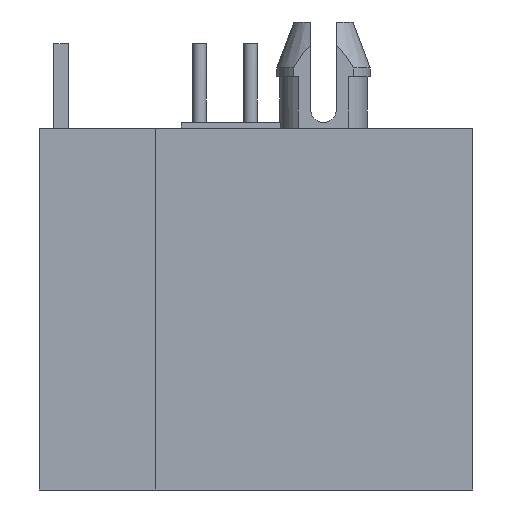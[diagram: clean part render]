
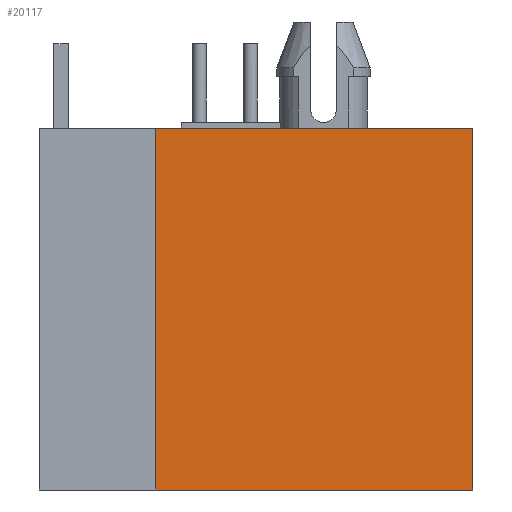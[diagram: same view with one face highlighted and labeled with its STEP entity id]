
A CAD part, left-side view. The second image highlights one B-rep face of the part: STEP entity #20117.
In plain terms, the highlighted planar face has unit normal (-1, 0, 0).
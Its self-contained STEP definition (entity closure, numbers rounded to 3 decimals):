
#13=DIRECTION('',(0.,-1.,0.));
#14=VECTOR('',#13,11.05);
#15=CARTESIAN_POINT('',(-23.6,11.05,0.));
#16=LINE('',#15,#14);
#17=DIRECTION('',(0.,0.,-1.));
#18=VECTOR('',#17,12.6);
#19=CARTESIAN_POINT('',(-23.6,0.,0.));
#20=LINE('',#19,#18);
#25=DIRECTION('',(0.,0.,-1.));
#26=VECTOR('',#25,12.6);
#27=CARTESIAN_POINT('',(-23.6,11.05,0.));
#28=LINE('',#27,#26);
#53=DIRECTION('',(0.,-1.,0.));
#54=VECTOR('',#53,11.05);
#55=CARTESIAN_POINT('',(-23.6,11.05,-12.6));
#56=LINE('',#55,#54);
#15582=CARTESIAN_POINT('',(-23.6,0.,0.));
#15583=CARTESIAN_POINT('',(-23.6,0.,-12.6));
#15584=VERTEX_POINT('',#15582);
#15585=VERTEX_POINT('',#15583);
#15782=CARTESIAN_POINT('',(-23.6,11.05,0.));
#15783=CARTESIAN_POINT('',(-23.6,11.05,-12.6));
#15784=VERTEX_POINT('',#15782);
#15785=VERTEX_POINT('',#15783);
#20103=CARTESIAN_POINT('',(-23.6,0.,-12.6));
#20104=DIRECTION('',(-1.,0.,0.));
#20105=DIRECTION('',(0.,0.,1.));
#20106=AXIS2_PLACEMENT_3D('',#20103,#20104,#20105);
#20107=PLANE('',#20106);
#20109=ORIENTED_EDGE('',*,*,#20108,.F.);
#20111=ORIENTED_EDGE('',*,*,#20110,.T.);
#20112=ORIENTED_EDGE('',*,*,#19882,.T.);
#20114=ORIENTED_EDGE('',*,*,#20113,.F.);
#20115=EDGE_LOOP('',(#20109,#20111,#20112,#20114));
#20116=FACE_OUTER_BOUND('',#20115,.F.);
#20117=ADVANCED_FACE('',(#20116),#20107,.T.);
#19882=EDGE_CURVE('',#15584,#15585,#20,.T.);
#20108=EDGE_CURVE('',#15784,#15785,#28,.T.);
#20110=EDGE_CURVE('',#15784,#15584,#16,.T.);
#20113=EDGE_CURVE('',#15785,#15585,#56,.T.);
